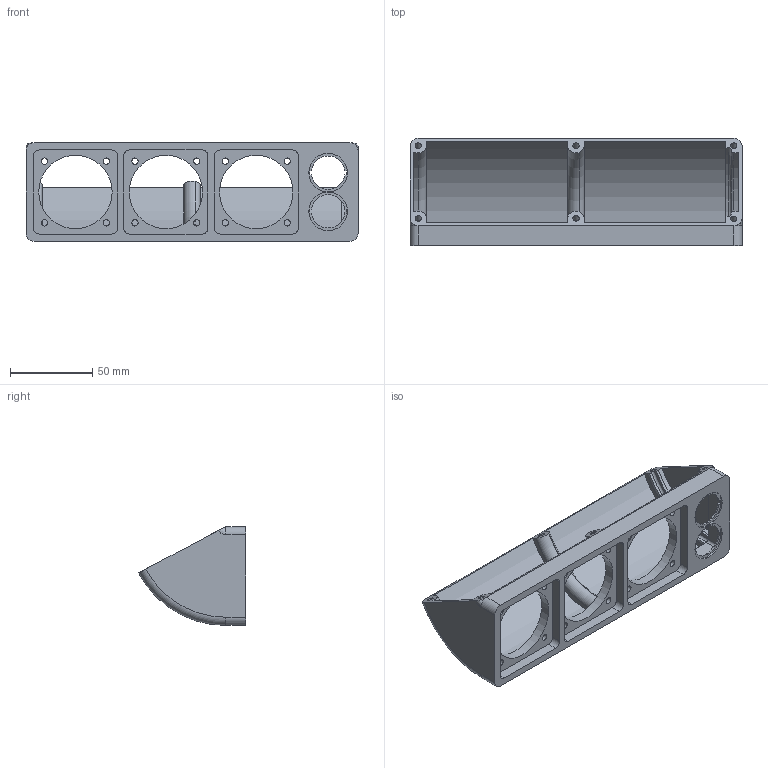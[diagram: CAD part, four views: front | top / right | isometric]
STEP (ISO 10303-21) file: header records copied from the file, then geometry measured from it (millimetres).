
FILE_DESCRIPTION(/* description */ (''),/* implementation_level */ '2;1');
FILE_NAME(/* name */ 'C:\Users\Karol\Documents\Inventor\gniazdo_desktop\Socket_Enclosure.stp',/* time_stamp */ '2026-03-14T22:23:33+01:00',/* author */ ('Karol'),/* organization */ (''),/* preprocessor_version */ 'ST-DEVELOPER v16.1',/* originating_system */ 'Autodesk Inventor 2016',/* authorisation */ '');
FILE_SCHEMA (('AUTOMOTIVE_DESIGN { 1 0 10303 214 3 1 1 }'));
Length unit declared in the file: millimetre
Products named in the file (1): korpus1
Bounding box: 201.44 x 64.98 x 60 mm (x, y, z)
Volume: 100901.7 mm3; surface area: 62145.5 mm2
Topology: 1 solids, 1 shells, 137 faces, 371 edges, 242 vertices
Faces by surface type: plane 61, cylinder 58, torus 11, bspline 7
Full cylindrical faces by diameter (mm): 3.8 x18, 23.4 x2, 44.5 x3
Entity records: 4354 total; most frequent: CARTESIAN_POINT 808, DIRECTION 772, ORIENTED_EDGE 682, EDGE_CURVE 341, AXIS2_PLACEMENT_3D 302, VERTEX_POINT 237, EDGE_LOOP 204, LINE 168
